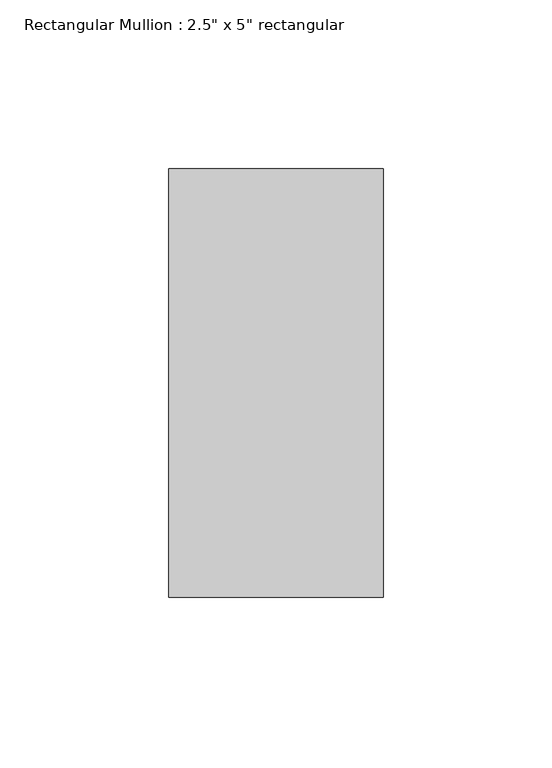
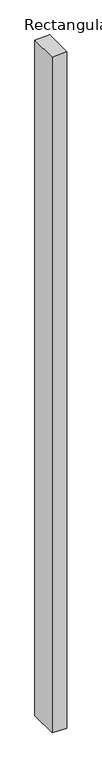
"""IFC4 building model written with IfcOpenShell, lengths in millimetres: member geometry."""

import ifcopenshell
import ifcopenshell.guid

model = None  # the IFC model being written
_history = None  # IfcOwnerHistory: only IFC2X3 demands one
_inside = {}  # id of a spatial element -> (the spatial element, [elements in it])
_under = {}  # id of a project, library or spatial element -> (it, [spatial elements below it])
_declared = {}  # id of a project -> (the project, [libraries it declares])
_typed = {}  # id of a type object -> (the type object, [elements of that type])
_made_of = {}  # id of a material, layer set ... -> (it, [elements and type objects made of it])


def new_model(schema):
    """Start an empty IFC model of exactly this schema.

    Asked for "IFC4X3", IfcOpenShell would pick the latest addendum, in which some entities
    have other attributes; the version numbers below select the first issue.
    IFC2X3 requires an IfcOwnerHistory on every rooted entity: one is made here for all.
    """
    global model, _history
    if schema == "IFC4X3":
        model = ifcopenshell.file(schema_version=(4, 3, 0, 0))
    else:
        model = ifcopenshell.file(schema=schema)
    _inside.clear()
    _under.clear()
    _declared.clear()
    _typed.clear()
    _made_of.clear()
    _history = None
    if model.schema == "IFC2X3":
        org = make("IfcOrganization", Name="unknown")
        user = make(
            "IfcPersonAndOrganization",
            ThePerson=make("IfcPerson", FamilyName="unknown"),
            TheOrganization=org,
        )
        app = make(
            "IfcApplication",
            ApplicationDeveloper=org,
            Version="unknown",
            ApplicationFullName="unknown",
            ApplicationIdentifier="unknown",
        )
        _history = make(
            "IfcOwnerHistory",
            OwningUser=user,
            OwningApplication=app,
            ChangeAction="ADDED",
            CreationDate=0,
        )
    return model


def make(cls, **values):
    """One entity of the class cls with the attributes given. An attribute that is None is left unset."""
    return model.create_entity(
        cls, **{name: value for name, value in values.items() if value is not None}
    )


def rooted(cls, **values):
    """An entity with a GlobalId (a new one), such as an element, a storey or a relation."""
    return make(cls, GlobalId=ifcopenshell.guid.new(), OwnerHistory=_history, **values)


def si_unit(unit_type, name, prefix=None):
    """IfcSIUnit, for example si_unit("LENGTHUNIT", "METRE", prefix="MILLI")."""
    return make("IfcSIUnit", UnitType=unit_type, Prefix=prefix, Name=name)


def assignment(units):
    """IfcUnitAssignment: the units of a project."""
    return None if units is None else make("IfcUnitAssignment", Units=units)


def point(xyz):
    """IfcCartesianPoint."""
    return None if xyz is None else make("IfcCartesianPoint", Coordinates=xyz)


def direction(xyz):
    """IfcDirection."""
    return None if xyz is None else make("IfcDirection", DirectionRatios=xyz)


def frame(location, z_axis=None, x_axis=None):
    """IfcAxis2Placement3D, a coordinate frame: its origin and axes. An axis left out is left unset."""
    return make(
        "IfcAxis2Placement3D",
        Location=point(location),
        Axis=direction(z_axis),
        RefDirection=direction(x_axis),
    )


def origin():
    """The frame at (0, 0, 0) with its axes left unset."""
    return frame((0.0, 0.0, 0.0))


def place(relative_to, where):
    """IfcLocalPlacement: puts the frame where relative to a parent placement (None: the world)."""
    return make(
        "IfcLocalPlacement", PlacementRelTo=relative_to, RelativePlacement=where
    )


def context(
    kind, dimensions, precision=None, world=None, true_north=None, identifier=None
):
    """IfcGeometricRepresentationContext, for example the 3D "Model" context."""
    return make(
        "IfcGeometricRepresentationContext",
        ContextIdentifier=identifier,
        ContextType=kind,
        CoordinateSpaceDimension=dimensions,
        Precision=precision,
        WorldCoordinateSystem=world,
        TrueNorth=true_north,
    )


def project(units=None, contexts=None):
    """IfcProject with its units and contexts."""
    return rooted(
        "IfcProject",
        Name="project",
        RepresentationContexts=contexts,
        UnitsInContext=assignment(units),
    )


def spatial(cls, under=None, at=None, **own):
    """A site, building, storey or space (cls), placed at a placement, below another one or the project."""
    s = rooted(cls, ObjectPlacement=at, **own)
    if under is not None:
        _under.setdefault(under.id(), (under, []))[1].append(s)
    return s


def polyline(points):
    """IfcPolyline through the points."""
    return make("IfcPolyline", Points=[point(p) for p in points])


def outline(outer, holes=None, kind="AREA"):
    """IfcArbitraryClosedProfileDef: a profile drawn as a closed curve; with holes, ...WithVoids."""
    if holes is None:
        return make("IfcArbitraryClosedProfileDef", ProfileType=kind, OuterCurve=outer)
    return make(
        "IfcArbitraryProfileDefWithVoids",
        ProfileType=kind,
        OuterCurve=outer,
        InnerCurves=holes,
    )


def extrude(swept, where, along, depth):
    """IfcExtrudedAreaSolid: the profile swept, set in the frame where, extruded along a direction by depth."""
    return make(
        "IfcExtrudedAreaSolid",
        SweptArea=swept,
        Position=where,
        ExtrudedDirection=direction(along),
        Depth=depth,
    )


def shape(context_of_items, identifier, shape_type, items):
    """IfcShapeRepresentation: the items that make up one representation, for example the "Body"."""
    return make(
        "IfcShapeRepresentation",
        ContextOfItems=context_of_items,
        RepresentationIdentifier=identifier,
        RepresentationType=shape_type,
        Items=items,
    )


def source(mapping_origin, context_of_items, identifier, shape_type, items):
    """IfcRepresentationMap: a shape defined once, which mapped items show again and again."""
    return make(
        "IfcRepresentationMap",
        MappingOrigin=mapping_origin,
        MappedRepresentation=shape(context_of_items, identifier, shape_type, items),
    )


def transform(
    local_origin,
    x_axis=None,
    y_axis=None,
    z_axis=None,
    scale=None,
    scale2=None,
    scale3=None,
    uniform=True,
):
    """IfcCartesianTransformationOperator3D, or its non-uniform kind. x_axis, y_axis, z_axis: its Axis1, 2, 3."""
    if uniform:
        return make(
            "IfcCartesianTransformationOperator3D",
            Axis1=direction(x_axis),
            Axis2=direction(y_axis),
            LocalOrigin=point(local_origin),
            Scale=scale,
            Axis3=direction(z_axis),
        )
    return make(
        "IfcCartesianTransformationOperator3DnonUniform",
        Axis1=direction(x_axis),
        Axis2=direction(y_axis),
        LocalOrigin=point(local_origin),
        Scale=scale,
        Axis3=direction(z_axis),
        Scale2=scale2,
        Scale3=scale3,
    )


def mapped(mapping_source, mapping_target):
    """IfcMappedItem: shows the shape of a source again, moved by a transform."""
    return make(
        "IfcMappedItem", MappingSource=mapping_source, MappingTarget=mapping_target
    )


def made_of(thing, what):
    """Note that an element or type object is made of a material, layer set ...; save() writes the relation."""
    if what is not None:
        _made_of.setdefault(what.id(), (what, []))[1].append(thing)
    return thing


def element(
    cls,
    number,
    at=None,
    inside=None,
    cuts=None,
    type_object=None,
    material=None,
    context=None,
    identifier="Body",
    shape_type=None,
    held_by="IfcProductDefinitionShape",
    body=None,
    shapes=None,
    **own,
):
    """One element of the class cls, such as IfcWall. Its Tag is "e" and its number.

    at: its placement. inside: the storey or other place that contains it. cuts: it is an
    opening in that element (IfcRelVoidsElement). A single representation is given by context,
    identifier, shape_type and body (its items); several are given by shapes. held_by: the class
    of the entity that holds the representations. save() writes the other relations.
    """
    e = rooted(cls, Tag="e%d" % number, ObjectPlacement=at, **own)
    if body is not None:
        shapes = [shape(context, identifier, shape_type, body)]
    if shapes is not None:
        e.Representation = make(held_by, Representations=shapes)
    if inside is not None:
        _inside.setdefault(inside.id(), (inside, []))[1].append(e)
    if cuts is not None:
        rooted(
            "IfcRelVoidsElement", RelatingBuildingElement=cuts, RelatedOpeningElement=e
        )
    if type_object is not None:
        _typed.setdefault(type_object.id(), (type_object, []))[1].append(e)
    return made_of(e, material)


def aggregate(whole, parts):
    """IfcRelAggregates: a whole, such as a stair, and the parts it consists of."""
    return rooted("IfcRelAggregates", RelatingObject=whole, RelatedObjects=parts)


def save(model, path):
    """Write the relations noted so far, then the file.

    IfcRelAggregates (storeys below a building ...), IfcRelContainedInSpatialStructure (elements
    in a storey), IfcRelDefinesByType, IfcRelAssociatesMaterial and IfcRelDeclares: one each for
    every whole, place, type object, material and project.
    """
    for whole, parts in _under.values():
        aggregate(whole, parts)
    for where, things in _inside.values():
        rooted(
            "IfcRelContainedInSpatialStructure",
            RelatedElements=things,
            RelatingStructure=where,
        )
    for kind, things in _typed.values():
        rooted("IfcRelDefinesByType", RelatedObjects=things, RelatingType=kind)
    for what, things in _made_of.values():
        rooted("IfcRelAssociatesMaterial", RelatedObjects=things, RelatingMaterial=what)
    for by, libraries in _declared.values():
        rooted("IfcRelDeclares", RelatingContext=by, RelatedDefinitions=libraries)
    model.write(path)


def member_20368c7e(model_context):
    return source(origin(), model_context, "Body", "SweptSolid", [
        extrude(outline(polyline([(0.0, 0.0), (-1.2429022, -63.5), (-3049.3519054, -63.5), (-3050.5968235, 0.0), (0.0, 0.0)])), frame((0.0, -63.5, 0.0), z_axis=(0.0, 1.0, 0.0), x_axis=(0.0, 0.0, 1.0)), (0.0, 0.0, 1.0), 127.0),
    ])


if __name__ == "__main__":
    model = new_model("IFC4")
    model_context = context("Model", 3, world=origin())
    ifc_project = project(units=[si_unit("LENGTHUNIT", "METRE", prefix="MILLI")], contexts=[model_context])
    site = spatial("IfcSite", under=ifc_project)
    building = spatial("IfcBuilding", under=site)
    placement = place(None, origin())
    member_shape = member_20368c7e(model_context)
    element("IfcMember", 1, ObjectType="Rectangular Mullion : 2.5\" x 5\" rectangular", at=placement, inside=building, context=model_context, shape_type="MappedRepresentation", body=[
        mapped(member_shape, transform((0.0, 0.0, 0.0), x_axis=(1.0, 0.0, 0.0), y_axis=(0.0, 1.0, 0.0), z_axis=(0.0, 0.0, 1.0))),
    ])
    save(model, "model.ifc")
